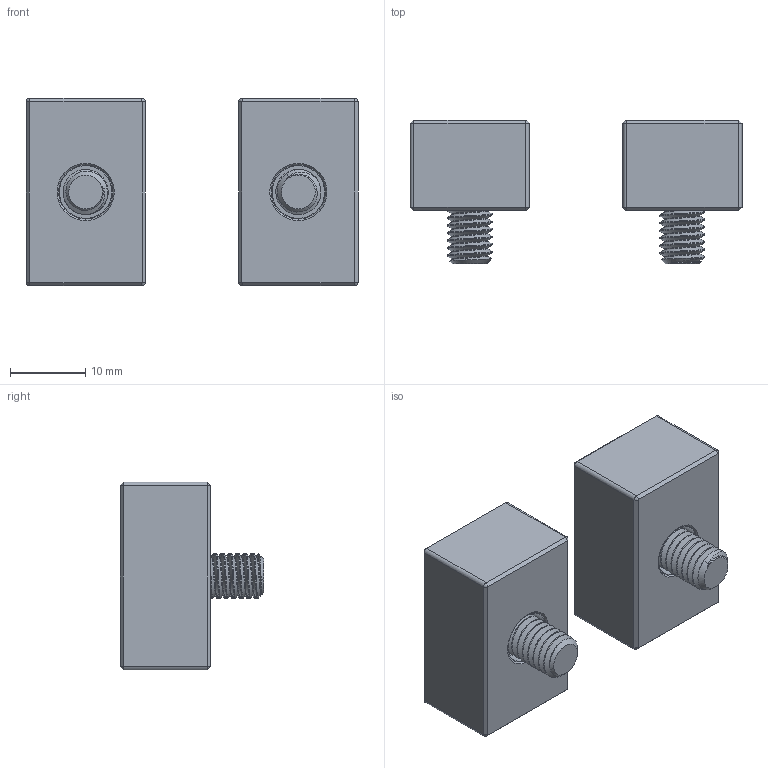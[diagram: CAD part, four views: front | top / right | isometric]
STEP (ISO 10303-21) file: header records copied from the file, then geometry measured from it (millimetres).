
FILE_DESCRIPTION (( 'STEP AP214' ), '1' );
FILE_NAME ('05-0180.STEP', '2022-01-19T18:03:17', ( '' ), ( '' ), 'SwSTEP 2.0', 'SolidWorks 2021', '' );
FILE_SCHEMA (( 'AUTOMOTIVE_DESIGN' ));
Length unit declared in the file: inch
Products named in the file (3): 10000155647_eCOMMERCE; 05-0180; 10000155138_91239A321
Assembly tree (4 placements, depth 2):
  05-0180
    10000155647_eCOMMERCE  x2
    10000155138_91239A321  x2
Bounding box: 44.17 x 19.1 x 25 mm (x, y, z)
Volume: 8619.6 mm3; surface area: 5196.2 mm2
Topology: 4 solids, 4 shells, 230 faces, 570 edges, 358 vertices
Faces by surface type: cylinder 116, plane 54, cone 44, torus 8, sphere 4, bspline 4
Entity records: 5041 total; most frequent: CARTESIAN_POINT 2354, ORIENTED_EDGE 570, DIRECTION 480, EDGE_CURVE 285, AXIS2_PLACEMENT_3D 184, VERTEX_POINT 179, EDGE_LOOP 122, FACE_OUTER_BOUND 115
